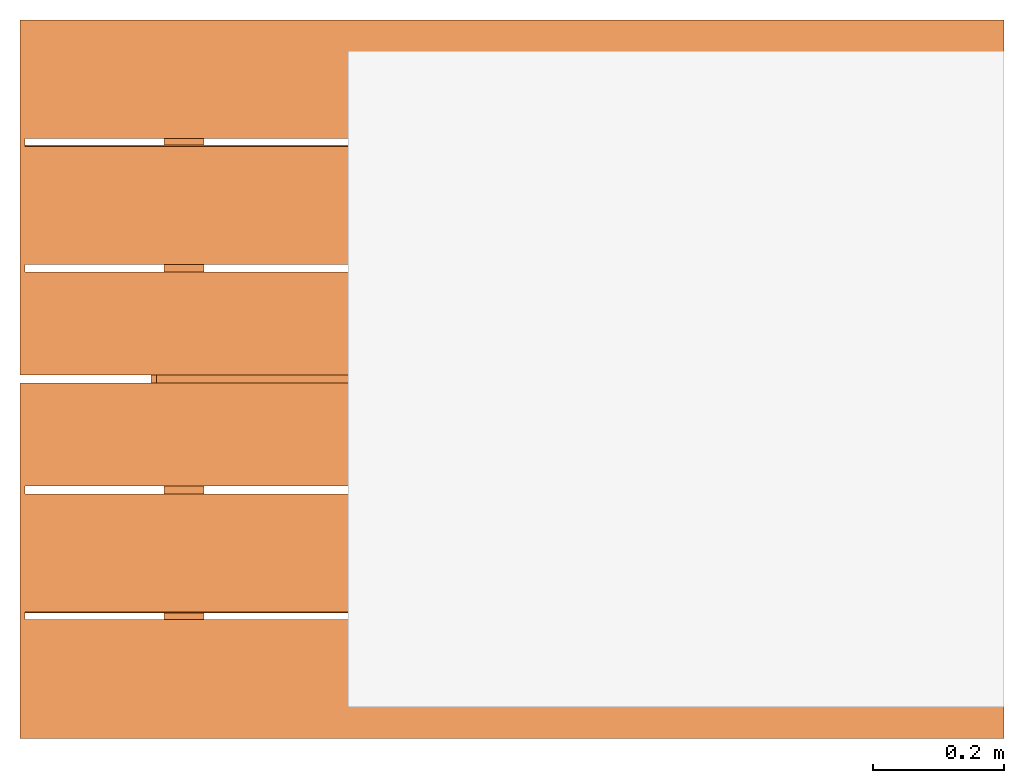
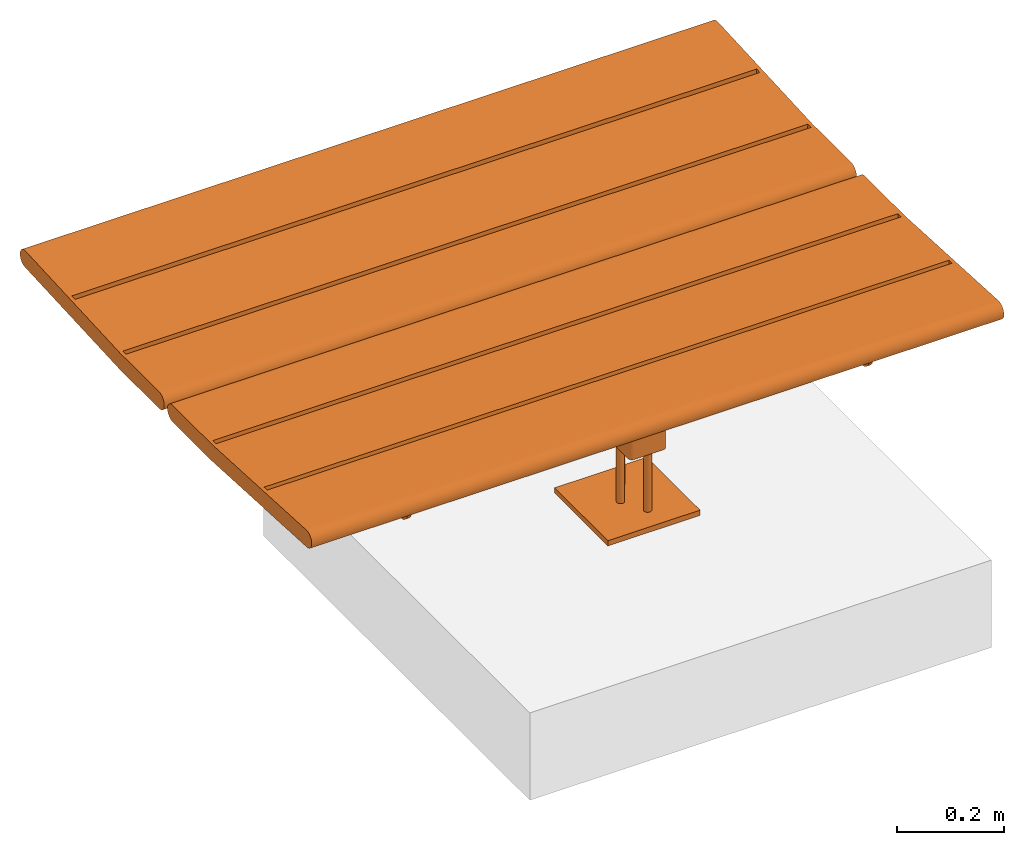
# One storey, part 2 of 2: 1 proxy.
"""IFC4 building model written with IfcOpenShell, lengths in metres."""

from ifc_helpers import new_model, entity, si_unit, converted_unit, direction, frame, frame_2d, origin, place, context, subcontext, project, spatial, polyline, circle_curve, parameter, trimmed, segment, composite_curve, rectangle, circle, outline, extrude, source, transform, mapped, material, constituent, constituent_set, type_object, type_shapes, element, save


model = new_model("IFC4")

# Units and contexts
model_context = context("Model", 3, precision=1e-05, world=origin(), true_north=direction((6.123031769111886e-17, 1.0)))
body_context = subcontext(model_context, "Body", "Model", "MODEL_VIEW")
ifc_project = project(units=[si_unit("LENGTHUNIT", "METRE"), converted_unit("PLANEANGLEUNIT", "DEGREE", entity("IfcPlaneAngleMeasure", 0.017453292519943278), si_unit("PLANEANGLEUNIT", "RADIAN"), dimensions=[0, 0, 0, 0, 0, 0, 0]), si_unit("AREAUNIT", "SQUARE_METRE")], contexts=[model_context])

# Site, building, storey
site_placement = place(None, origin())
site = spatial("IfcSite", under=ifc_project, at=site_placement, Name="Default", CompositionType="ELEMENT")
building_placement = place(site_placement, origin())
building = spatial("IfcBuilding", under=site, at=building_placement, CompositionType="ELEMENT")
storey_placement = place(building_placement, origin())
storey = spatial("IfcBuildingStorey", under=building, at=storey_placement, Name="Ebene 0", CompositionType="ELEMENT", Elevation=0.0)

# Proxy
ifc_material_1 = material(Name="DB_Stahl_pulverbeschichtet_RAL7023", Category="DB_Stahl")
ifc_constituent_1 = constituent(ifc_material_1, Name="DB_Stahl_pulverbeschichtet_RAL7023", Category="DB_Stahl")
ifc_material_2 = material(Name="DB_Bambus")
ifc_constituent_2 = constituent(ifc_material_2, Name="DB_Bambus")
ifc_constituent_set_1 = constituent_set(constituents=[ifc_constituent_1, ifc_constituent_2])
ifc_constituent_3 = constituent(ifc_material_1, Name="DB_FAM_Volumen", Category="DB_Stahl")
ifc_constituent_4 = constituent(ifc_material_2, Name="DB_FAM_Volumen")
ifc_constituent_set_2 = constituent_set(constituents=[ifc_constituent_3, ifc_constituent_4])
building_element_proxy_type = type_object("IfcBuildingElementProxyType", Name="DB_Calidum_light_B3:DB_Calidum_light_B3", PredefinedType="NOTDEFINED", material=ifc_constituent_set_2)
shared_shape = source(origin(), body_context, "Body", "SweptSolid", [
    extrude(outline(composite_curve([segment(polyline([(-0.020000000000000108, -0.07999999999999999), (0.019999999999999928, -0.08)]), True, "CONTINUOUS"), segment(trimmed(circle_curve(frame_2d((0.01999999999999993, -0.07000000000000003), x_axis=(0.0, 1.0)), 0.01), [parameter(179.99999999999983)], [parameter(269.9999999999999)], True, "PARAMETER"), True, "CONTINUOUS"), segment(polyline([(0.029999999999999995, -0.07000000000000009), (0.030000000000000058, 0.06999999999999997)]), True, "CONTINUOUS"), segment(trimmed(circle_curve(frame_2d((0.019999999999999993, 0.06999999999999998), x_axis=(-1.0, 0.0)), 0.01), [parameter(179.99999999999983)], [parameter(269.9999999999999)], True, "PARAMETER"), True, "CONTINUOUS"), segment(polyline([(0.020000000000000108, 0.07999999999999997), (-0.019999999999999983, 0.08000000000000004)]), True, "CONTINUOUS"), segment(trimmed(circle_curve(frame_2d((-0.019999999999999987, 0.07000000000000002), x_axis=(0.0, -1.0)), 0.01), [parameter(179.99999999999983)], [parameter(269.9999999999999)], True, "PARAMETER"), True, "CONTINUOUS"), segment(polyline([(-0.029999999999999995, 0.0700000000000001), (-0.030000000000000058, -0.06999999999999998)]), True, "CONTINUOUS"), segment(trimmed(circle_curve(frame_2d((-0.02000000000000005, -0.06999999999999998), x_axis=(1.0, 0.0)), 0.01), [parameter(179.99999999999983)], [parameter(269.9999999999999)], True, "PARAMETER"), True, "CONTINUOUS")], self_intersect=False), holes=[composite_curve([segment(polyline([(-0.024999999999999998, -0.06999999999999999), (-0.02499999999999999, 0.07000000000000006)]), True, "CONTINUOUS"), segment(trimmed(circle_curve(frame_2d((-0.019999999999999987, 0.07000000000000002), x_axis=(0.0, -1.0)), 0.005), [parameter(179.99999999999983)], [parameter(269.99999999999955)], True, "PARAMETER"), False, "CONTINUOUS"), segment(polyline([(-0.019999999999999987, 0.07500000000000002), (0.019999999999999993, 0.07499999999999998)]), True, "CONTINUOUS"), segment(trimmed(circle_curve(frame_2d((0.019999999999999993, 0.06999999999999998), x_axis=(-1.0, 0.0)), 0.005), [parameter(179.99999999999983)], [parameter(269.9999999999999)], True, "PARAMETER"), False, "CONTINUOUS"), segment(polyline([(0.02500000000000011, 0.06999999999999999), (0.02499999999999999, -0.07000000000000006)]), True, "CONTINUOUS"), segment(trimmed(circle_curve(frame_2d((0.01999999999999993, -0.07000000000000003), x_axis=(0.0, 1.0)), 0.005), [parameter(179.99999999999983)], [parameter(269.99999999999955)], True, "PARAMETER"), False, "CONTINUOUS"), segment(polyline([(0.01999999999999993, -0.07500000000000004), (-0.02000000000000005, -0.07499999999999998)]), True, "CONTINUOUS"), segment(trimmed(circle_curve(frame_2d((-0.02000000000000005, -0.06999999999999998), x_axis=(1.0, 0.0)), 0.005), [parameter(179.99999999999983)], [parameter(269.99999999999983)], True, "PARAMETER"), False, "CONTINUOUS")], self_intersect=False)]), frame((-0.5419999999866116, 0.0, 0.3620000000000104), z_axis=(1.0, 0.0, 0.0), x_axis=(0.0, 0.0, -1.0)), (0.0, 0.0, 1.0), 1.0839999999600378),
    extrude(outline(composite_curve([segment(trimmed(circle_curve(frame_2d((-0.2174312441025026, -0.006196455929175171), x_axis=(-0.7071067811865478, -0.7071067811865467)), 0.019000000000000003), [parameter(224.99999999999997)], [parameter(44.99999999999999)], True, "PARAMETER"), True, "CONTINUOUS"), segment(polyline([(-0.21743124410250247, -0.025196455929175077), (-0.06813997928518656, -0.0251964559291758)]), True, "CONTINUOUS"), segment(polyline([(-0.06813997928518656, -0.0251964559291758), (0.28706313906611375, -0.006581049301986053)]), True, "CONTINUOUS"), segment(trimmed(circle_curve(frame_2d((0.28606875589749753, 0.012392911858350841), x_axis=(-0.052335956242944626, 0.9986295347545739)), 0.019000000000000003), [parameter(180.0000000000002)], [parameter(359.99999999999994)], True, "PARAMETER"), True, "CONTINUOUS"), segment(polyline([(0.2850743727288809, 0.03136687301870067), (-0.06913504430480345, 0.01280354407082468)]), True, "CONTINUOUS"), segment(polyline([(-0.06913504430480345, 0.01280354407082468), (-0.21743124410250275, 0.01280354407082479)]), True, "CONTINUOUS")], self_intersect=False)), frame((0.7419999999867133, -0.24242870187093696, 0.4171964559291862), z_axis=(-1.0, 0.0, 0.0), x_axis=(0.0, -1.0, 0.0)), (0.0, 0.0, -1.0), 0.008000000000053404),
    extrude(outline(composite_curve([segment(trimmed(circle_curve(frame_2d((0.15812866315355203, -0.14936555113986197), x_axis=(1.0, 0.0)), 0.019000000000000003), [parameter(225.00000000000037)], [parameter(45.0000000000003)], True, "PARAMETER"), True, "CONTINUOUS"), segment(polyline([(0.17156369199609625, -0.13593052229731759), (0.06599882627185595, -0.030365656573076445)]), True, "CONTINUOUS"), segment(polyline([(0.06599882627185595, -0.030365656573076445), (-0.1983307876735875, 0.20763779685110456)]), True, "CONTINUOUS"), segment(trimmed(circle_curve(frame_2d((-0.2110442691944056, 0.19351804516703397), x_axis=(-0.6691306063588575, -0.7431448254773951)), 0.019000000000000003), [parameter(180.00000000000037)], [parameter(1.5266662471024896e-13)], True, "PARAMETER"), True, "CONTINUOUS"), segment(polyline([(-0.22375775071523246, 0.17939829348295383), (0.03983238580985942, -0.0579393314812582)]), True, "CONTINUOUS"), segment(polyline([(0.03983238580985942, -0.0579393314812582), (0.14469363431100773, -0.1628005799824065)]), True, "CONTINUOUS")], self_intersect=False)), frame((0.7419999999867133, 0.24243378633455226, 0.4171964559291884), z_axis=(1.0, 0.0, 0.0), x_axis=(0.0, -0.7071067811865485, -0.7071067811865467)), (0.0, 0.0, 1.0), 0.008000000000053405),
    extrude(outline(composite_curve([segment(polyline([(-0.08049999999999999, -0.019000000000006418), (0.08050000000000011, -0.0190000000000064)]), True, "CONTINUOUS"), segment(trimmed(circle_curve(frame_2d((0.08050000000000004, 0.0), x_axis=(0.0, 1.0)), 0.01900000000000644), [parameter(179.9999999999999)], [parameter(1.0177774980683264e-13)], True, "PARAMETER"), True, "CONTINUOUS"), segment(polyline([(0.0805000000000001, 0.01900000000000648), (-0.08050000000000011, 0.019000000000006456)]), True, "CONTINUOUS"), segment(polyline([(-0.08050000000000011, 0.019000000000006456), (-0.08049999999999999, -0.019000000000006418)]), True, "CONTINUOUS")], self_intersect=False)), frame((-0.7419999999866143, -0.44810042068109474, 0.42537593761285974), z_axis=(1.0, 0.0, 0.0), x_axis=(0.0, -0.9986295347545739, 0.05233595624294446)), (0.0, 0.0, 1.0), 1.4839999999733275),
    extrude(outline(composite_curve([segment(polyline([(-0.06899923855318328, -0.01900000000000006), (0.06899923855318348, -0.019000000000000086)]), True, "CONTINUOUS"), segment(polyline([(0.06899923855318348, -0.019000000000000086), (0.06899923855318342, 0.019000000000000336)]), True, "CONTINUOUS"), segment(polyline([(0.06899923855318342, 0.019000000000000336), (-0.06899923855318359, 0.01899999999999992)]), True, "CONTINUOUS"), segment(trimmed(circle_curve(frame_2d((-0.0689992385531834, 0.0), x_axis=(-0.7071067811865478, 0.7071067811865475)), 0.019000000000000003), [parameter(315.00000000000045)], [parameter(135.00000000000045)], True, "PARAMETER"), True, "CONTINUOUS")], self_intersect=False)), frame((-0.7419999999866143, -0.09399669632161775, 0.41100000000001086), z_axis=(1.0, 0.0, 0.0), x_axis=(0.0, -1.0, 0.0)), (0.0, 0.0, 1.0), 1.4839999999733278),
    extrude(rectangle(XDim=0.038000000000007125, YDim=0.18000000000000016, at=frame_2d((-1.734723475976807e-18, 3.469446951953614e-17), x_axis=(1.0, 0.0))), frame((-0.7419999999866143, -0.265850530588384, 0.4158246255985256), z_axis=(1.0, 0.0, 0.0), x_axis=(0.0, -0.052335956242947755, -0.9986295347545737)), (0.0, 0.0, 1.0), 1.4839999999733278),
    extrude(outline(composite_curve([segment(polyline([(-0.0690029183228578, -0.01900000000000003), (0.06900291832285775, -0.01900000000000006)]), True, "CONTINUOUS"), segment(trimmed(circle_curve(frame_2d((0.0690029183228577, 0.0), x_axis=(0.7071067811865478, 0.7071067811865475)), 0.019000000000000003), [parameter(225.00000000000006)], [parameter(44.99999999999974)], True, "PARAMETER"), True, "CONTINUOUS"), segment(polyline([(0.06900291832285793, 0.01899999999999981), (-0.06900291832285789, 0.01900000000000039)]), True, "CONTINUOUS"), segment(polyline([(-0.06900291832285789, 0.01900000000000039), (-0.0690029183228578, -0.01900000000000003)]), True, "CONTINUOUS")], self_intersect=False)), frame((-0.7419999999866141, 0.09400546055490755, 0.411000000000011), z_axis=(1.0, 0.0, 0.0), x_axis=(0.0, -1.0, 0.0)), (0.0, 0.0, 1.0), 1.4839999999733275),
    extrude(outline(composite_curve([segment(polyline([(-0.019000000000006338, -0.08050000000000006), (0.019000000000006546, -0.08050000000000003)]), True, "CONTINUOUS"), segment(polyline([(0.019000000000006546, -0.08050000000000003), (0.019000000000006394, 0.08050000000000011)]), True, "CONTINUOUS"), segment(trimmed(circle_curve(frame_2d((0.0, 0.08050000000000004), x_axis=(1.0, 0.0)), 0.01900000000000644), [parameter(3.5622212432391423e-13)], [parameter(180.00000000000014)], True, "PARAMETER"), True, "CONTINUOUS"), segment(polyline([(-0.01900000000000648, 0.0805000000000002), (-0.019000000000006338, -0.08050000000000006)]), True, "CONTINUOUS")], self_intersect=False)), frame((-0.7419999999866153, 0.44810550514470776, 0.42537593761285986), z_axis=(1.0, 0.0, 0.0), x_axis=(0.0, 0.0523359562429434, -0.9986295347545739)), (0.0, 0.0, 1.0), 1.4839999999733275),
    extrude(rectangle(XDim=0.038000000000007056, YDim=0.18000000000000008, at=frame_2d((0.0, -3.469446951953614e-17), x_axis=(0.0, 1.0))), frame((-0.7419999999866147, 0.265855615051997, 0.4158246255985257), z_axis=(1.0, 0.0, 0.0), x_axis=(0.0, -0.9986295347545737, -0.052335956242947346)), (0.0, 0.0, 1.0), 1.4839999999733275),
    extrude(outline(composite_curve([segment(polyline([(-0.07000000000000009, -0.025999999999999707), (0.0699999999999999, -0.025999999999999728)]), True, "CONTINUOUS"), segment(trimmed(circle_curve(frame_2d((0.06999999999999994, -0.02000000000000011), x_axis=(0.0, -1.0)), 0.006000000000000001), [parameter(0.0)], [parameter(90.00000000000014)], True, "PARAMETER"), True, "CONTINUOUS"), segment(polyline([(0.07599999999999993, -0.02000000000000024), (0.07599999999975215, 0.01999999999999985)]), True, "CONTINUOUS"), segment(trimmed(circle_curve(frame_2d((0.07000000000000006, 0.01999999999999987), x_axis=(1.0, 0.0)), 0.006000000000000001), [parameter(6.615553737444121e-13)], [parameter(90.0000000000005)], True, "PARAMETER"), True, "CONTINUOUS"), segment(polyline([(0.07000000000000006, 0.02599999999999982), (-0.06999999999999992, 0.026000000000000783)]), True, "CONTINUOUS"), segment(trimmed(circle_curve(frame_2d((-0.06999999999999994, 0.020000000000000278), x_axis=(0.0, 1.0)), 0.00599999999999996), [parameter(3.5622212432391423e-13)], [parameter(90.00000000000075)], True, "PARAMETER"), True, "CONTINUOUS"), segment(polyline([(-0.0759999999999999, 0.020000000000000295), (-0.07600000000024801, -0.019999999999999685)]), True, "CONTINUOUS"), segment(trimmed(circle_curve(frame_2d((-0.07000000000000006, -0.019999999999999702), x_axis=(-1.0, 0.0)), 0.006000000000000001), [parameter(6.615553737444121e-13)], [parameter(90.0000000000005)], True, "PARAMETER"), True, "CONTINUOUS")], self_intersect=False)), frame((0.5419999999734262, 2.5422315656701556e-06, 0.3620000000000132), z_axis=(1.0, 0.0, 0.0), x_axis=(0.0, -1.0, 0.0)), (0.0, 0.0, 1.0), 0.008000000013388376),
    extrude(outline(composite_curve([segment(polyline([(-0.0643779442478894, -0.025365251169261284), (0.2327485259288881, -0.02536525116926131)]), True, "CONTINUOUS"), segment(trimmed(circle_curve(frame_2d((0.21474852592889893, -0.0013652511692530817), x_axis=(0.0, -1.0)), 0.030000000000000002), [parameter(36.86989764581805)], [parameter(179.9999999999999)], True, "PARAMETER"), True, "CONTINUOUS"), segment(polyline([(0.21474852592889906, 0.02863474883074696), (-0.06579198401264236, 0.02863474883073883)]), True, "CONTINUOUS"), segment(polyline([(-0.06579198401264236, 0.02863474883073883), (-0.16007663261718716, 0.023693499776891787)]), True, "CONTINUOUS"), segment(polyline([(-0.16007663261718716, 0.023693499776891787), (-0.15725049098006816, -0.03023249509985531)]), True, "CONTINUOUS"), segment(polyline([(-0.15725049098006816, -0.03023249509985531), (-0.0643779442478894, -0.025365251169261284)]), True, "CONTINUOUS")], self_intersect=False)), frame((0.4959999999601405, -0.23861468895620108, 0.3640387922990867), z_axis=(1.0, 0.0, 0.0), x_axis=(0.0, -0.9986295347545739, 0.05233595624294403)), (0.0, 0.0, 1.0), 0.007999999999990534),
    extrude(outline(composite_curve([segment(polyline([(-0.0643779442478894, -0.025365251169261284), (0.2327485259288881, -0.02536525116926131)]), True, "CONTINUOUS"), segment(trimmed(circle_curve(frame_2d((0.2147485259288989, -0.0013652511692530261), x_axis=(0.0, -1.0)), 0.030000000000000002), [parameter(36.86989764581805)], [parameter(179.9999999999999)], True, "PARAMETER"), True, "CONTINUOUS"), segment(polyline([(0.21474852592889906, 0.02863474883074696), (-0.06579198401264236, 0.02863474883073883)]), True, "CONTINUOUS"), segment(polyline([(-0.06579198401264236, 0.02863474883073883), (-0.16007663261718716, 0.023693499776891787)]), True, "CONTINUOUS"), segment(polyline([(-0.16007663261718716, 0.023693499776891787), (-0.15725049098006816, -0.03023249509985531)]), True, "CONTINUOUS"), segment(polyline([(-0.15725049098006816, -0.03023249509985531), (-0.0643779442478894, -0.025365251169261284)]), True, "CONTINUOUS")], self_intersect=False)), frame((-0.5040000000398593, -0.23861468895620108, 0.3640387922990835), z_axis=(1.0, 0.0, 0.0), x_axis=(0.0, -0.9986295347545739, 0.05233595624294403)), (0.0, 0.0, 1.0), 0.007999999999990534),
    extrude(outline(composite_curve([segment(polyline([(0.06561723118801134, -0.02196120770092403), (0.15861723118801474, -0.02196120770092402)]), True, "CONTINUOUS"), segment(polyline([(0.15861723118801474, -0.02196120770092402), (0.15861723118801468, 0.03203879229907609)]), True, "CONTINUOUS"), segment(polyline([(0.15861723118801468, 0.03203879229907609), (0.06420319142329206, 0.03203879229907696)]), True, "CONTINUOUS"), segment(polyline([(0.06420319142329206, 0.03203879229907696), (-0.2159528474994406, 0.01735643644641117)]), True, "CONTINUOUS"), segment(trimmed(circle_curve(frame_2d((-0.21438276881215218, -0.012602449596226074), x_axis=(0.052335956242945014, -0.9986295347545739)), 0.030000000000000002), [parameter(180.00000000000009)], [parameter(323.1301023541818)], True, "PARAMETER"), True, "CONTINUOUS"), segment(polyline([(-0.23110203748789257, -0.037511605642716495), (0.06561723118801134, -0.02196120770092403)]), True, "CONTINUOUS")], self_intersect=False)), frame((0.4959999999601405, 0.2386197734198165, 0.3640387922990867), z_axis=(1.0, 0.0, 0.0), x_axis=(0.0, -1.0, 0.0)), (0.0, 0.0, 1.0), 0.007999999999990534),
    extrude(outline(composite_curve([segment(polyline([(0.06561723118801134, -0.02196120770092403), (0.15861723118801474, -0.02196120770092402)]), True, "CONTINUOUS"), segment(polyline([(0.15861723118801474, -0.02196120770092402), (0.15861723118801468, 0.03203879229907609)]), True, "CONTINUOUS"), segment(polyline([(0.15861723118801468, 0.03203879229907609), (0.06420319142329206, 0.03203879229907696)]), True, "CONTINUOUS"), segment(polyline([(0.06420319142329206, 0.03203879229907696), (-0.2159528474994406, 0.01735643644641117)]), True, "CONTINUOUS"), segment(trimmed(circle_curve(frame_2d((-0.21438276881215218, -0.012602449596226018), x_axis=(0.052335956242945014, -0.9986295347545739)), 0.030000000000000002), [parameter(180.00000000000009)], [parameter(323.1301023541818)], True, "PARAMETER"), True, "CONTINUOUS"), segment(polyline([(-0.23110203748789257, -0.037511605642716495), (0.06561723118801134, -0.02196120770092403)]), True, "CONTINUOUS")], self_intersect=False)), frame((-0.5040000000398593, 0.2386197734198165, 0.36403879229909), z_axis=(1.0, 0.0, 0.0), x_axis=(0.0, -1.0, 0.0)), (0.0, 0.0, 1.0), 0.007999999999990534),
    extrude(outline(composite_curve([segment(trimmed(circle_curve(frame_2d((-0.2174312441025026, -0.006196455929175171), x_axis=(-0.7071067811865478, -0.7071067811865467)), 0.019000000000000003), [parameter(225.00000000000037)], [parameter(45.00000000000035)], True, "PARAMETER"), True, "CONTINUOUS"), segment(polyline([(-0.21743124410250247, -0.025196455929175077), (-0.06813997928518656, -0.0251964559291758)]), True, "CONTINUOUS"), segment(polyline([(-0.06813997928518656, -0.0251964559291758), (0.28706313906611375, -0.006581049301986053)]), True, "CONTINUOUS"), segment(trimmed(circle_curve(frame_2d((0.28606875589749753, 0.012392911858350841), x_axis=(-0.052335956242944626, 0.9986295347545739)), 0.019000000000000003), [parameter(180.0000000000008)], [parameter(6.106664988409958e-13)], True, "PARAMETER"), True, "CONTINUOUS"), segment(polyline([(0.2850743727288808, 0.031366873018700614), (-0.06913504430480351, 0.01280354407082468)]), True, "CONTINUOUS"), segment(polyline([(-0.06913504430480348, 0.01280354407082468), (-0.21743124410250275, 0.01280354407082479)]), True, "CONTINUOUS")], self_intersect=False)), frame((-0.7499999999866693, -0.24242870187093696, 0.4171964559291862), z_axis=(-1.0, 0.0, 0.0), x_axis=(0.0, -1.0, 0.0)), (0.0, 0.0, -1.0), 0.008000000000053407),
    extrude(outline(composite_curve([segment(trimmed(circle_curve(frame_2d((0.15812866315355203, -0.14936555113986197), x_axis=(1.0, 0.0)), 0.019000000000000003), [parameter(224.99999999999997)], [parameter(44.99999999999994)], True, "PARAMETER"), True, "CONTINUOUS"), segment(polyline([(0.17156369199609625, -0.13593052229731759), (0.06599882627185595, -0.030365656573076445)]), True, "CONTINUOUS"), segment(polyline([(0.06599882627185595, -0.030365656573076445), (-0.19833078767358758, 0.20763779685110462)]), True, "CONTINUOUS"), segment(trimmed(circle_curve(frame_2d((-0.2110442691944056, 0.19351804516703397), x_axis=(-0.6691306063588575, -0.7431448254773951)), 0.019000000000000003), [parameter(180.0000000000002)], [parameter(359.99999999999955)], True, "PARAMETER"), True, "CONTINUOUS"), segment(polyline([(-0.22375775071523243, 0.17939829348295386), (0.039832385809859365, -0.05793933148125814)]), True, "CONTINUOUS"), segment(polyline([(0.0398323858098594, -0.05793933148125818), (0.14469363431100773, -0.1628005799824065)]), True, "CONTINUOUS")], self_intersect=False)), frame((-0.7499999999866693, 0.24243378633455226, 0.4171964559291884), z_axis=(1.0, 0.0, 0.0), x_axis=(0.0, -0.7071067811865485, -0.7071067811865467)), (0.0, 0.0, 1.0), 0.008000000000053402),
    extrude(outline(polyline([(-0.17488377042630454, -0.0028810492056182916), (-0.17488377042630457, -0.008881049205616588), (-0.08188377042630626, -0.008881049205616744), (0.255921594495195, 0.00882257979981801), (0.2556134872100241, 0.014701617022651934), (-0.07988377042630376, -0.0028810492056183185), (-0.17488377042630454, -0.0028810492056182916)])), frame((-0.5306497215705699, -0.25488122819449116, 0.39488104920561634), z_axis=(-1.0, 0.0, 0.0), x_axis=(0.0, -1.0, 0.0)), (0.0, 0.0, -1.0), 0.061299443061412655),
    extrude(outline(polyline([(0.0028810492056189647, -0.17488377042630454), (0.008881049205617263, -0.17488377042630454), (0.00888104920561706, -0.08188377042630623), (-0.008822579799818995, 0.25592159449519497), (-0.014701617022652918, 0.25561348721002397), (0.0028810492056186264, -0.07988377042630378), (0.0028810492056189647, -0.17488377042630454)])), frame((-0.5306497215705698, 0.2548863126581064, 0.39488104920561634), z_axis=(1.0, 0.0, 0.0), x_axis=(0.0, 0.0, -1.0)), (0.0, 0.0, 1.0), 0.061299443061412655),
    extrude(outline(polyline([(-0.17488377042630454, -0.0028810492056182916), (-0.17488377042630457, -0.008881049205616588), (-0.08188377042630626, -0.008881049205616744), (0.25592159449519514, 0.00882257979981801), (0.2556134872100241, 0.014701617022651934), (-0.07988377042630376, -0.0028810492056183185), (-0.17488377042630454, -0.0028810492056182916)])), frame((0.46935027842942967, -0.2548812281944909, 0.39488104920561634), z_axis=(-1.0, 0.0, 0.0), x_axis=(0.0, -1.0, 0.0)), (0.0, 0.0, -1.0), 0.061299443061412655),
    extrude(outline(polyline([(0.0028810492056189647, -0.1748837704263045), (0.008881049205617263, -0.1748837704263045), (0.00888104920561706, -0.08188377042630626), (-0.008822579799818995, 0.25592159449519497), (-0.014701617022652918, 0.2556134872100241), (0.0028810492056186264, -0.0798837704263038), (0.0028810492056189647, -0.1748837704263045)])), frame((0.4693502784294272, 0.2548863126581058, 0.39488104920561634), z_axis=(1.0, 0.0, 0.0), x_axis=(0.0, 0.0, -1.0)), (0.0, 0.0, 1.0), 0.061299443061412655),
    extrude(outline(polyline([(-0.025749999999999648, -0.0758125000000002), (0.025749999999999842, -0.0758125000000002), (0.03600000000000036, -0.06556249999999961), (0.03599999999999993, 0.06543750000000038), (0.025500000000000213, 0.07593750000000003), (-0.025500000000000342, 0.07593749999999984), (-0.03600000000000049, 0.06543749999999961), (-0.03600000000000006, -0.06556249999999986), (-0.025749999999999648, -0.0758125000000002)])), frame((0.250000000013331, 6.504223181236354e-05, 0.040000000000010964)), (0.0, 0.0, 1.0), 0.009999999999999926),
    extrude(outline(composite_curve([segment(polyline([(-0.0720000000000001, -0.04000000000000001), (0.07199999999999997, -0.04000000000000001)]), True, "CONTINUOUS"), segment(trimmed(circle_curve(frame_2d((0.07199999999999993, -0.032), x_axis=(-1.0, 0.0)), 0.008), [parameter(90.00000000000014)], [parameter(180.0)], True, "PARAMETER"), True, "CONTINUOUS"), segment(polyline([(0.07999999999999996, -0.03200000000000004), (0.08000000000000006, 0.03199999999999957)]), True, "CONTINUOUS"), segment(trimmed(circle_curve(frame_2d((0.07200000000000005, 0.03199999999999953), x_axis=(0.0, -1.0)), 0.008), [parameter(90.00000000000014)], [parameter(179.99999999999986)], True, "PARAMETER"), True, "CONTINUOUS"), segment(polyline([(0.07200000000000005, 0.03999999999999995), (-0.07200000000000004, 0.03999999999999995)]), True, "CONTINUOUS"), segment(trimmed(circle_curve(frame_2d((-0.07199999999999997, 0.03199999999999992), x_axis=(1.0, 0.0)), 0.008), [parameter(90.00000000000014)], [parameter(179.99999999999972)], True, "PARAMETER"), True, "CONTINUOUS"), segment(polyline([(-0.07999999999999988, 0.03199999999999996), (-0.08000000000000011, -0.031999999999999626)]), True, "CONTINUOUS"), segment(trimmed(circle_curve(frame_2d((-0.0720000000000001, -0.03199999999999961), x_axis=(0.0, 1.0)), 0.008), [parameter(90.00000000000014)], [parameter(179.99999999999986)], True, "PARAMETER"), True, "CONTINUOUS")], self_intersect=False), holes=[composite_curve([segment(trimmed(circle_curve(frame_2d((-0.0720000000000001, -0.03199999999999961), x_axis=(0.0, 1.0)), 0.004), [parameter(90.0000000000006)], [parameter(180.00000000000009)], True, "PARAMETER"), False, "CONTINUOUS"), segment(polyline([(-0.07600000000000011, -0.03199999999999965), (-0.07599999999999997, 0.03199999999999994)]), True, "CONTINUOUS"), segment(trimmed(circle_curve(frame_2d((-0.07199999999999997, 0.03199999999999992), x_axis=(1.0, 0.0)), 0.004), [parameter(90.0000000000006)], [parameter(179.99999999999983)], True, "PARAMETER"), False, "CONTINUOUS"), segment(polyline([(-0.072, 0.03599999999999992), (0.07200000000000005, 0.035999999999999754)]), True, "CONTINUOUS"), segment(trimmed(circle_curve(frame_2d((0.07200000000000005, 0.03199999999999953), x_axis=(0.0, -1.0)), 0.004), [parameter(90.0000000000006)], [parameter(180.00000000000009)], True, "PARAMETER"), False, "CONTINUOUS"), segment(polyline([(0.07600000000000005, 0.031999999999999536), (0.07599999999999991, -0.03200000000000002)]), True, "CONTINUOUS"), segment(trimmed(circle_curve(frame_2d((0.07199999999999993, -0.032), x_axis=(-1.0, 0.0)), 0.004), [parameter(90.00000000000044)], [parameter(179.99999999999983)], True, "PARAMETER"), False, "CONTINUOUS"), segment(polyline([(0.07199999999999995, -0.036000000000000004), (-0.0720000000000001, -0.03599999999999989)]), True, "CONTINUOUS")], self_intersect=False)]), frame((0.25000000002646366, 2.542231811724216e-06, 0.0), z_axis=(0.0, 0.0, 1.0), x_axis=(0.0, 1.0, 0.0)), (0.0, 0.0, 1.0), 0.33900000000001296),
    extrude(circle(Radius=0.008, at=frame_2d((1.0023901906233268e-30, -6.767919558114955e-17), x_axis=(1.0, 0.0))), frame((0.2650000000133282, -0.049997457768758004, -0.14999999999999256)), (0.0, 0.0, 1.0), 0.2250000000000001),
    extrude(circle(Radius=0.008, at=frame_2d((1.0023901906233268e-30, -6.767919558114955e-17), x_axis=(1.0, 0.0))), frame((0.26500000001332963, 0.050002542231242, -0.14999999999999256)), (0.0, 0.0, 1.0), 0.2250000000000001),
    extrude(circle(Radius=0.008, at=frame_2d((9.807015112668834e-31, -6.621482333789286e-17), x_axis=(1.0, 0.0))), frame((0.23500000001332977, 2.5422312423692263e-06, -0.14999999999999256)), (0.0, 0.0, 1.0), 0.2250000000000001),
    extrude(rectangle(XDim=0.20000000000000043, YDim=0.2, at=frame_2d((2.0816681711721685e-17, 0.0), x_axis=(1.0, 0.0))), frame((0.2500000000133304, 2.5422312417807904e-06, -0.1619999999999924), z_axis=(0.0, 0.0, 1.0), x_axis=(-1.0, 0.0, 0.0)), (0.0, 0.0, 1.0), 0.011999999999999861),
    extrude(outline(polyline([(-0.025749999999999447, -0.07581250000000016), (0.025750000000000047, -0.07581250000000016), (0.03600000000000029, -0.06556249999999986), (0.03599999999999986, 0.06543750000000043), (0.02550000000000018, 0.07593750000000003), (-0.025500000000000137, 0.07593749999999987), (-0.03600000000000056, 0.06543749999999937), (-0.03600000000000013, -0.06556249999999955), (-0.025749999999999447, -0.07581250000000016)])), frame((0.2500000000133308, 6.504223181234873e-05, 0.03999999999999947)), (0.0, 0.0, 1.0), 0.009999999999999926),
    extrude(outline(composite_curve([segment(polyline([(-0.07000000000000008, -0.025999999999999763), (0.06999999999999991, -0.025999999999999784)]), True, "CONTINUOUS"), segment(trimmed(circle_curve(frame_2d((0.06999999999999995, -0.020000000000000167), x_axis=(0.0, -1.0)), 0.006000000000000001), [parameter(359.9999999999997)], [parameter(89.99999999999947)], True, "PARAMETER"), True, "CONTINUOUS"), segment(polyline([(0.07599999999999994, -0.02000000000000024), (0.07599999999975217, 0.019999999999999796)]), True, "CONTINUOUS"), segment(trimmed(circle_curve(frame_2d((0.07000000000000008, 0.019999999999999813), x_axis=(1.0, 0.0)), 0.006000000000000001), [parameter(0.0)], [parameter(90.00000000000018)], True, "PARAMETER"), True, "CONTINUOUS"), segment(polyline([(0.07000000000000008, 0.02599999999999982), (-0.06999999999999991, 0.026000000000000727)]), True, "CONTINUOUS"), segment(trimmed(circle_curve(frame_2d((-0.06999999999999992, 0.020000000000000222), x_axis=(0.0, 1.0)), 0.00599999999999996), [parameter(0.0)], [parameter(90.00000000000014)], True, "PARAMETER"), True, "CONTINUOUS"), segment(polyline([(-0.07599999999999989, 0.02000000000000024), (-0.076000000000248, -0.01999999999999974)]), True, "CONTINUOUS"), segment(trimmed(circle_curve(frame_2d((-0.07000000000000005, -0.019999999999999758), x_axis=(-1.0, 0.0)), 0.006000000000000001), [parameter(0.0)], [parameter(90.00000000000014)], True, "PARAMETER"), True, "CONTINUOUS")], self_intersect=False)), frame((-0.5499999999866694, 2.5422315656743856e-06, 0.3620000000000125), z_axis=(1.0, 0.0, 0.0), x_axis=(0.0, -1.0, 0.0)), (0.0, 0.0, 1.0), 0.008000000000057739),
])
type_shapes(building_element_proxy_type, [shared_shape])
proxy_placement = place(storey_placement, frame((0.7499999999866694, 0.0, -0.00999999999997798)))
element("IfcBuildingElementProxy", 1, at=proxy_placement, inside=storey, type_object=building_element_proxy_type, material=ifc_constituent_set_1, Name="DB_Calidum_light_B3:DB_Calidum_light_B3", ObjectType="DB_Calidum_light_B3:DB_Calidum_light_B3", PredefinedType="NOTDEFINED", context=body_context, shape_type="MappedRepresentation", body=[
    mapped(shared_shape, transform((0.0, 0.0, 0.0), scale=1.0)),
])

save(model, "model.ifc")
